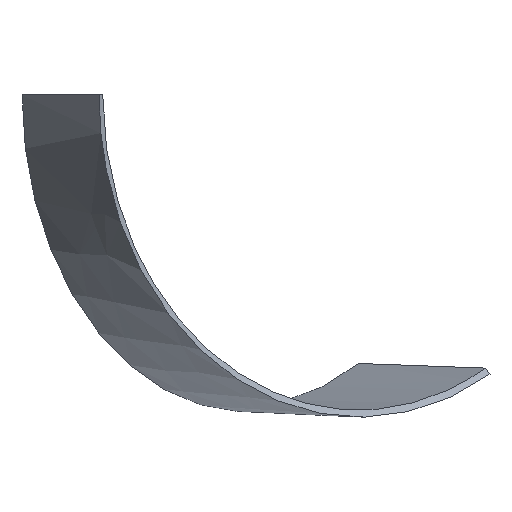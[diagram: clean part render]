
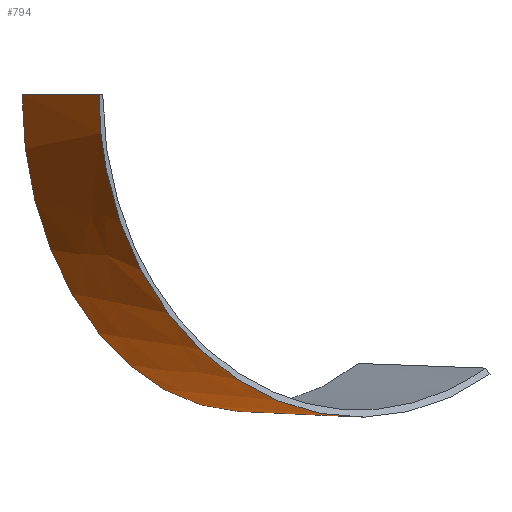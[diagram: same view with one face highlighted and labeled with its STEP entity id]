
A CAD part, left-side view. The second image highlights one B-rep face of the part: STEP entity #794.
In plain terms, the highlighted free-form (B-spline) face has degree [3, 3] with [13, 4] control points.
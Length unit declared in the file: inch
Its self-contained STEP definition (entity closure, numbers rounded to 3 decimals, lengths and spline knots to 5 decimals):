
#6 = CARTESIAN_POINT ( 'NONE',  ( 57.28898, -78.76106, -27.00129 ) ) ;
#12 = ORIENTED_EDGE ( 'NONE', *, *, #1093, .T. ) ;
#22 = CARTESIAN_POINT ( 'NONE',  ( 80.78683, -111.00169, -30.07068 ) ) ;
#43 = CARTESIAN_POINT ( 'NONE',  ( 77.68341, -106.74402, -33.10026 ) ) ;
#44 = CARTESIAN_POINT ( 'NONE',  ( 60.76957, -60.72826, -0.0639 ) ) ;
#45 = CARTESIAN_POINT ( 'NONE',  ( 54.71365, -75.22678, -22.6321 ) ) ;
#52 = CARTESIAN_POINT ( 'NONE',  ( 75.32452, -92.95616, -34.48919 ) ) ;
#54 = CARTESIAN_POINT ( 'NONE',  ( 51.12887, -70.3069, -12.11045 ) ) ;
#62 = EDGE_CURVE ( 'NONE', #1202, #785, #1109, .T. ) ;
#72 = CARTESIAN_POINT ( 'NONE',  ( 64.0028, -63.97483, -17.07227 ) ) ;
#101 = CARTESIAN_POINT ( 'NONE',  ( 93.16228, -93.2489, -32.53513 ) ) ;
#129 = CARTESIAN_POINT ( 'NONE',  ( 77.68341, -106.74402, -33.10026 ) ) ;
#173 = B_SPLINE_SURFACE_WITH_KNOTS ( 'NONE', 3, 3, ( 
 ( #22, #422, #528, #1528 ),
 ( #43, #1407, #278, #652 ),
 ( #1049, #447, #573, #934 ),
 ( #837, #52, #1311, #1338 ),
 ( #1074, #474, #177, #555 ),
 ( #977, #583, #1571, #1561 ),
 ( #185, #1199, #1437, #309 ),
 ( #943, #827, #1580, #211 ),
 ( #684, #809, #675, #1063 ),
 ( #564, #1190, #712, #72 ),
 ( #1056, #1084, #1455, #702 ),
 ( #1446, #318, #965, #440 ),
 ( #954, #1598, #1217, #1590 ) ),
 .UNSPECIFIED., .F., .F., .F.,
 ( 4, 3, 3, 3, 4 ),
 ( 4, 4 ),
 ( 0., 0.25, 0.5, 0.75, 1. ),
 ( 0., 1. ),
 .UNSPECIFIED. ) ;
#177 = CARTESIAN_POINT ( 'NONE',  ( 76.0599, -84.4482, -34.28553 ) ) ;
#179 = CARTESIAN_POINT ( 'NONE',  ( 80.78683, -111.00169, -30.07068 ) ) ;
#185 = CARTESIAN_POINT ( 'NONE',  ( 60.38898, -83.01494, -30.04025 ) ) ;
#197 = CARTESIAN_POINT ( 'NONE',  ( 53.70677, -66.24151, -0.06389 ) ) ;
#211 = CARTESIAN_POINT ( 'NONE',  ( 69.14553, -69.13852, -26.53684 ) ) ;
#242 = CARTESIAN_POINT ( 'NONE',  ( 96.81739, -96.91781, -29.55791 ) ) ;
#264 = ORIENTED_EDGE ( 'NONE', *, *, #1257, .T. ) ;
#270 = CARTESIAN_POINT ( 'NONE',  ( 80.58712, -80.62538, -34.08739 ) ) ;
#278 = CARTESIAN_POINT ( 'NONE',  ( 88.00267, -97.74729, -32.7235 ) ) ;
#293 = CARTESIAN_POINT ( 'NONE',  ( 74.16515, -101.91714, -34.69241 ) ) ;
#294 = VERTEX_POINT ( 'NONE', #968 ) ;
#309 = CARTESIAN_POINT ( 'NONE',  ( 72.79587, -72.80338, -29.52416 ) ) ;
#311 = CARTESIAN_POINT ( 'NONE',  ( 50.17537, -68.99813, -0.06388 ) ) ;
#318 = CARTESIAN_POINT ( 'NONE',  ( 53.7138, -66.25018, -6.10665 ) ) ;
#332 = CARTESIAN_POINT ( 'NONE',  ( 66.11322, -66.0939, -22.24247 ) ) ;
#422 = CARTESIAN_POINT ( 'NONE',  ( 86.13036, -106.30707, -29.89975 ) ) ;
#440 = CARTESIAN_POINT ( 'NONE',  ( 60.77747, -60.73619, -6.03656 ) ) ;
#447 = CARTESIAN_POINT ( 'NONE',  ( 79.11637, -97.64131, -34.49471 ) ) ;
#474 = CARTESIAN_POINT ( 'NONE',  ( 71.53267, -88.271, -34.48367 ) ) ;
#493 = CARTESIAN_POINT ( 'NONE',  ( 69.14553, -69.13852, -26.53684 ) ) ;
#528 = CARTESIAN_POINT ( 'NONE',  ( 91.47388, -101.61245, -29.72883 ) ) ;
#534 = EDGE_CURVE ( 'NONE', #785, #1536, #1027, .T. ) ;
#540 = CARTESIAN_POINT ( 'NONE',  ( 96.81739, -96.91781, -29.55791 ) ) ;
#555 = CARTESIAN_POINT ( 'NONE',  ( 80.58712, -80.62538, -34.08739 ) ) ;
#564 = CARTESIAN_POINT ( 'NONE',  ( 52.92126, -72.76684, -17.37128 ) ) ;
#573 = CARTESIAN_POINT ( 'NONE',  ( 84.06758, -93.36547, -34.29702 ) ) ;
#583 = CARTESIAN_POINT ( 'NONE',  ( 67.80807, -83.66865, -32.88998 ) ) ;
#638 = ORIENTED_EDGE ( 'NONE', *, *, #534, .T. ) ;
#650 = B_SPLINE_CURVE_WITH_KNOTS ( 'NONE', 3,
 ( #540, #1183, #1289, #660 ),
 .UNSPECIFIED., .F., .F.,
 ( 4, 4 ),
 ( 0., 1. ),
 .UNSPECIFIED. ) ;
#652 = CARTESIAN_POINT ( 'NONE',  ( 93.16228, -93.2489, -32.53513 ) ) ;
#660 = CARTESIAN_POINT ( 'NONE',  ( 80.78683, -111.00169, -30.07068 ) ) ;
#675 = CARTESIAN_POINT ( 'NONE',  ( 62.31337, -69.1382, -22.37236 ) ) ;
#684 = CARTESIAN_POINT ( 'NONE',  ( 54.71365, -75.22678, -22.6321 ) ) ;
#686 = CARTESIAN_POINT ( 'NONE',  ( 50.17537, -68.99813, -0.06388 ) ) ;
#702 = CARTESIAN_POINT ( 'NONE',  ( 61.89239, -61.85576, -11.90208 ) ) ;
#712 = CARTESIAN_POINT ( 'NONE',  ( 60.30896, -66.90551, -17.17195 ) ) ;
#750 = CARTESIAN_POINT ( 'NONE',  ( 50.17537, -68.99813, -0.06388 ) ) ;
#785 = VERTEX_POINT ( 'NONE', #44 ) ;
#793 = CARTESIAN_POINT ( 'NONE',  ( 67.00543, -92.09378, -34.6818 ) ) ;
#794 = ADVANCED_FACE ( 'NONE', ( #1152 ), #173, .T. ) ;
#803 = EDGE_LOOP ( 'NONE', ( #264, #1035, #638, #12 ) ) ;
#809 = CARTESIAN_POINT ( 'NONE',  ( 58.51351, -72.1825, -22.50224 ) ) ;
#827 = CARTESIAN_POINT ( 'NONE',  ( 61.24117, -75.55356, -26.84649 ) ) ;
#837 = CARTESIAN_POINT ( 'NONE',  ( 70.58529, -97.00546, -34.68711 ) ) ;
#870 = B_SPLINE_CURVE_WITH_KNOTS ( 'NONE', 3,
 ( #179, #129, #293, #793, #1174, #6, #45, #54, #1192, #686 ),
 .UNSPECIFIED., .F., .F.,
 ( 4, 2, 2, 2, 4 ),
 ( 0., 0.25, 0.5, 0.75, 1. ),
 .UNSPECIFIED. ) ;
#894 = CARTESIAN_POINT ( 'NONE',  ( 76.44621, -76.46824, -32.51148 ) ) ;
#934 = CARTESIAN_POINT ( 'NONE',  ( 89.01877, -89.08961, -34.09932 ) ) ;
#943 = CARTESIAN_POINT ( 'NONE',  ( 57.28898, -78.76106, -27.00129 ) ) ;
#946 = CARTESIAN_POINT ( 'NONE',  ( 57.23817, -63.48488, -0.06389 ) ) ;
#954 = CARTESIAN_POINT ( 'NONE',  ( 50.17537, -68.99813, -0.06388 ) ) ;
#957 = CARTESIAN_POINT ( 'NONE',  ( 60.77747, -60.73619, -6.03656 ) ) ;
#965 = CARTESIAN_POINT ( 'NONE',  ( 57.24564, -63.49318, -6.07161 ) ) ;
#968 = CARTESIAN_POINT ( 'NONE',  ( 80.78683, -111.00169, -30.07068 ) ) ;
#977 = CARTESIAN_POINT ( 'NONE',  ( 63.48898, -87.26883, -33.07921 ) ) ;
#1027 = B_SPLINE_CURVE_WITH_KNOTS ( 'NONE', 3,
 ( #1583, #957, #1458, #332, #493, #894, #270, #1350, #101, #1527 ),
 .UNSPECIFIED., .F., .F.,
 ( 4, 2, 2, 2, 4 ),
 ( 0., 0.25, 0.5, 0.75, 1. ),
 .UNSPECIFIED. ) ;
#1035 = ORIENTED_EDGE ( 'NONE', *, *, #62, .T. ) ;
#1049 = CARTESIAN_POINT ( 'NONE',  ( 74.16515, -101.91714, -34.69241 ) ) ;
#1056 = CARTESIAN_POINT ( 'NONE',  ( 51.12887, -70.3069, -12.11045 ) ) ;
#1063 = CARTESIAN_POINT ( 'NONE',  ( 66.11322, -66.0939, -22.24247 ) ) ;
#1074 = CARTESIAN_POINT ( 'NONE',  ( 67.00543, -92.09378, -34.6818 ) ) ;
#1084 = CARTESIAN_POINT ( 'NONE',  ( 54.71671, -67.48985, -12.041 ) ) ;
#1093 = EDGE_CURVE ( 'NONE', #1536, #294, #650, .T. ) ;
#1109 = B_SPLINE_CURVE_WITH_KNOTS ( 'NONE', 3,
 ( #311, #197, #946, #1211 ),
 .UNSPECIFIED., .F., .F.,
 ( 4, 4 ),
 ( 0., 1. ),
 .UNSPECIFIED. ) ;
#1152 = FACE_OUTER_BOUND ( 'NONE', #803, .T. ) ;
#1174 = CARTESIAN_POINT ( 'NONE',  ( 63.48898, -87.26883, -33.07921 ) ) ;
#1183 = CARTESIAN_POINT ( 'NONE',  ( 91.47388, -101.61245, -29.72883 ) ) ;
#1190 = CARTESIAN_POINT ( 'NONE',  ( 56.61511, -69.83618, -17.27162 ) ) ;
#1192 = CARTESIAN_POINT ( 'NONE',  ( 50.18196, -69.00718, -6.14168 ) ) ;
#1199 = CARTESIAN_POINT ( 'NONE',  ( 64.52462, -79.6111, -29.86824 ) ) ;
#1202 = VERTEX_POINT ( 'NONE', #750 ) ;
#1211 = CARTESIAN_POINT ( 'NONE',  ( 60.76957, -60.72826, -0.0639 ) ) ;
#1217 = CARTESIAN_POINT ( 'NONE',  ( 57.23817, -63.48488, -0.06389 ) ) ;
#1257 = EDGE_CURVE ( 'NONE', #294, #1202, #870, .T. ) ;
#1289 = CARTESIAN_POINT ( 'NONE',  ( 86.13036, -106.30707, -29.89975 ) ) ;
#1311 = CARTESIAN_POINT ( 'NONE',  ( 80.06374, -88.90683, -34.29127 ) ) ;
#1338 = CARTESIAN_POINT ( 'NONE',  ( 84.80295, -84.85749, -34.09335 ) ) ;
#1350 = CARTESIAN_POINT ( 'NONE',  ( 89.01877, -89.08961, -34.09932 ) ) ;
#1407 = CARTESIAN_POINT ( 'NONE',  ( 82.84304, -102.24566, -32.91188 ) ) ;
#1437 = CARTESIAN_POINT ( 'NONE',  ( 68.66025, -76.20725, -29.69621 ) ) ;
#1446 = CARTESIAN_POINT ( 'NONE',  ( 50.18196, -69.00718, -6.14168 ) ) ;
#1455 = CARTESIAN_POINT ( 'NONE',  ( 58.30455, -64.67281, -11.97155 ) ) ;
#1458 = CARTESIAN_POINT ( 'NONE',  ( 61.89239, -61.85576, -11.90208 ) ) ;
#1527 = CARTESIAN_POINT ( 'NONE',  ( 96.81739, -96.91781, -29.55791 ) ) ;
#1528 = CARTESIAN_POINT ( 'NONE',  ( 96.81739, -96.91781, -29.55791 ) ) ;
#1536 = VERTEX_POINT ( 'NONE', #242 ) ;
#1561 = CARTESIAN_POINT ( 'NONE',  ( 76.44621, -76.46824, -32.51148 ) ) ;
#1571 = CARTESIAN_POINT ( 'NONE',  ( 72.12714, -80.06845, -32.70074 ) ) ;
#1580 = CARTESIAN_POINT ( 'NONE',  ( 65.19336, -72.34605, -26.69168 ) ) ;
#1583 = CARTESIAN_POINT ( 'NONE',  ( 60.76957, -60.72826, -0.0639 ) ) ;
#1590 = CARTESIAN_POINT ( 'NONE',  ( 60.76957, -60.72826, -0.0639 ) ) ;
#1598 = CARTESIAN_POINT ( 'NONE',  ( 53.70677, -66.24151, -0.06389 ) ) ;
